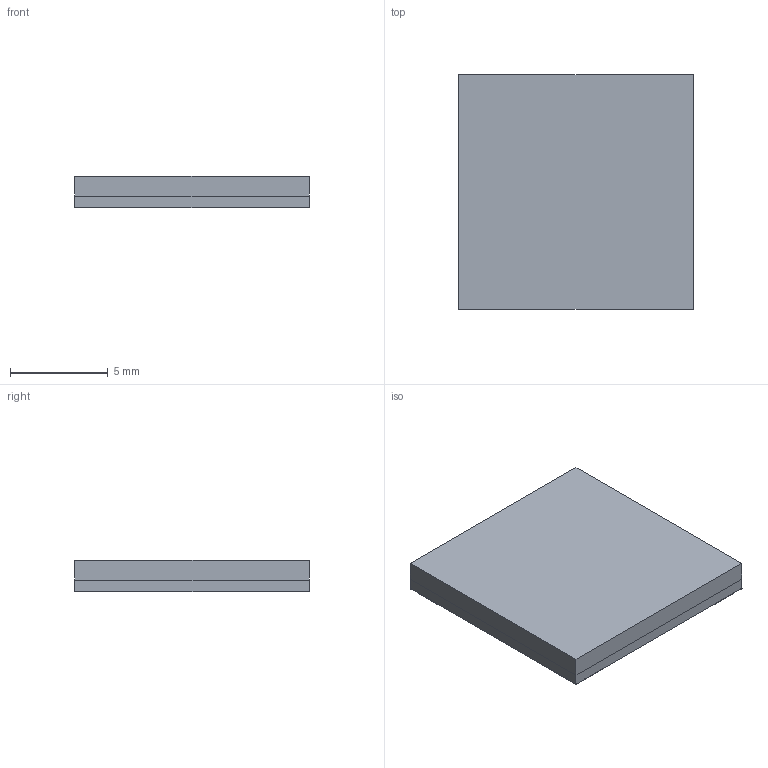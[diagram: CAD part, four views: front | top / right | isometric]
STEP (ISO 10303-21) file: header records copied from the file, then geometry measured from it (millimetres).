
FILE_DESCRIPTION (( 'STEP AP214' ), '1' );
FILE_NAME ('QFN50P1200X1200X160-64.STEP', '2025-01-10T11:19:05', ( '' ), ( '' ), 'SwSTEP 2.0', 'SolidWorks 2019', '' );
FILE_SCHEMA (( 'AUTOMOTIVE_DESIGN' ));
Length unit declared in the file: millimetre
Products named in the file (1): QFN50P1200X1200X160-64
Bounding box: 12 x 12 x 1.59 mm (x, y, z)
Volume: 218.7 mm3; surface area: 919.6 mm2
Topology: 71 solids, 71 shells, 2797 faces, 7332 edges, 4888 vertices
Faces by surface type: plane 2324, cylinder 473
Entity records: 116567 total; most frequent: CARTESIAN_POINT 15018, ORIENTED_EDGE 14664, DIRECTION 13874, EDGE_CURVE 7332, VECTOR 6386, LINE 6386, VERTEX_POINT 4888, AXIS2_PLACEMENT_3D 3744
